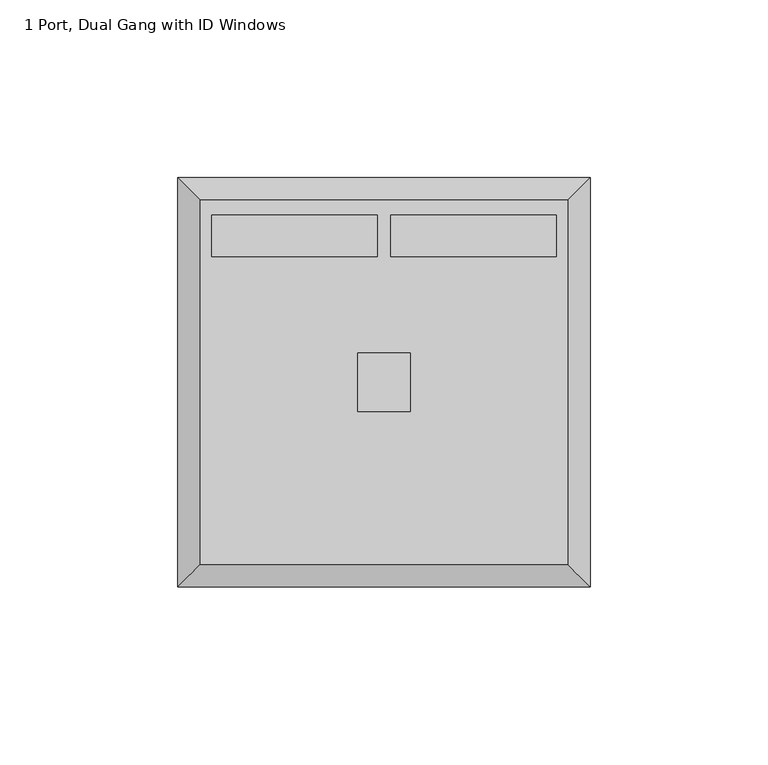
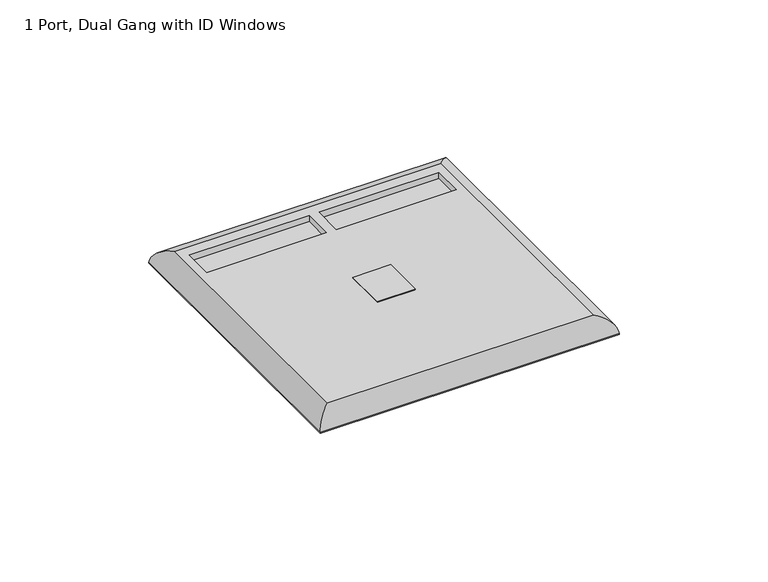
"""IFC4 building model written with IfcOpenShell, lengths in millimetres: electric appliance geometry, Data_Device-Work_Area-Leviton-QuickPort-Wallplate : 1 Port, Dual Gang with ID Windows."""

from ifc_helpers import new_model, si_unit, frame, origin, origin_with_axes, place, context, project, spatial, polyline, ellipse_curve, outline, extrude, source, transform, mapped, element, save
from ifc_brep_helpers import plane_surface, cylinder_surface, advanced_brep


def electric_appliance_1_port_dual_gang_with_id_windows_98a35fe1(model_context):
    return source(origin(), model_context, "Body", "SolidModel", [
        extrude(outline(polyline([(-15.6591, 16.4465), (-15.6591, -0.0635), (-30.3911, -0.0635), (-30.3911, 16.4465), (-15.6591, 16.4465)])), origin_with_axes(), (0.0, 0.0, 1.0), 6.35),
        advanced_brep(
        [(28.575, -42.9895, 6.35), (28.575, 59.3725, 6.35), (-74.6252, 59.3725, 6.35), (-74.6252, -42.9895, 6.35), (-30.3911, 16.4465, 6.35), (-15.6591, 16.4465, 6.35), (-15.6591, -0.0635, 6.35), (-30.3911, -0.0635, 6.35), (-71.44004, 55.1815, 6.35), (-24.95804, 55.1815, 6.35), (-24.95804, 43.4975, 6.35), (-71.44004, 43.4975, 6.35), (-21.09216, 43.4975, 6.35), (-21.09216, 55.1815, 6.35), (25.38984, 55.1815, 6.35), (25.38984, 43.4975, 6.35), (34.925, 65.7225, 0.0), (34.925, -49.3395, 0.0), (-80.9752, -49.3395, 0.0), (-80.9752, 65.7225, 0.0), (-15.6591, 16.4465, 0.0), (-30.3911, 16.4465, 0.0), (-30.3911, -0.0635, 0.0), (-15.6591, -0.0635, 0.0), (-80.9752, 65.7225, 0.254), (34.925, 65.7225, 0.254), (-80.9752, -49.3395, 0.254), (34.925, -49.3395, 0.254), (-24.95804, 55.1815, 3.81), (-71.44004, 55.1815, 3.81), (-71.44004, 43.4975, 3.81), (-24.95804, 43.4975, 3.81), (-21.09216, 55.1815, 3.81), (-21.09216, 43.4975, 3.81), (25.38984, 43.4975, 3.81), (25.38984, 55.1815, 3.81)],
        [
            (0, 1),
            (1, 2),
            (2, 3),
            (3, 0),
            (4, 5),
            (5, 6),
            (6, 7),
            (7, 4),
            (8, 9),
            (9, 10),
            (10, 11),
            (11, 8),
            (12, 13),
            (13, 14),
            (14, 15),
            (15, 12),
            (16, 17),
            (17, 18),
            (18, 19),
            (19, 16),
            (20, 21),
            (21, 22),
            (22, 23),
            (23, 20),
            (19, 24),
            (24, 25),
            (25, 16),
            (18, 26),
            (26, 24),
            (17, 27),
            (27, 26),
            (25, 27),
            (4, 21),
            (20, 5),
            (7, 22),
            (6, 23),
            (28, 29),
            (29, 30),
            (30, 31),
            (31, 28),
            (32, 33),
            (33, 34),
            (34, 35),
            (35, 32),
            (28, 9),
            (8, 29),
            (11, 30),
            (10, 31),
            (32, 13),
            (12, 33),
            (15, 34),
            (14, 35),
            (0, 27, ellipse_curve(frame((28.575, -42.9895, -0.0052917), z_axis=(0.7071067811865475, 0.7071067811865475, 0.0), x_axis=(0.7071067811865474, -0.7071067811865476, 0.0)), 8.9877397, 6.3552917)),
            (25, 1, ellipse_curve(frame((28.575, 59.3725, -0.0052917), z_axis=(0.7071067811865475, -0.7071067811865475, 0.0), x_axis=(-0.7071067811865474, -0.7071067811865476, 0.0)), 8.9877397, 6.3552917)),
            (3, 26, ellipse_curve(frame((-74.6252, -42.9895, -0.0052917), z_axis=(0.7071067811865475, -0.7071067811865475, 0.0), x_axis=(-0.7071067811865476, -0.7071067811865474, 0.0)), 8.9877397, 6.3552917)),
            (2, 24, ellipse_curve(frame((-74.6252, 59.3725, -0.0052917), z_axis=(-0.7071067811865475, -0.7071067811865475, 0.0), x_axis=(-0.7071067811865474, 0.7071067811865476, 0.0)), 8.9877397, 6.3552917)),
        ],
        [
            plane_surface(frame((-80.9752, 65.7225, 6.35), z_axis=(0.0, 0.0, 1.0), x_axis=(-1.0, 0.0, 0.0))),
            plane_surface(frame((-80.9752, 65.7225, 0.0), z_axis=(0.0, 0.0, -1.0), x_axis=(1.0, 0.0, 0.0))),
            plane_surface(frame((34.925, 65.7225, 6.35), z_axis=(0.0, 1.0, 0.0), x_axis=(0.0, 0.0, -1.0))),
            plane_surface(frame((-80.9752, 65.7225, 6.35), z_axis=(-1.0, 0.0, 0.0), x_axis=(0.0, 0.0, -1.0))),
            plane_surface(frame((-80.9752, -49.3395, 6.35), z_axis=(0.0, -1.0, 0.0), x_axis=(0.0, 0.0, -1.0))),
            plane_surface(frame((34.925, -49.3395, 6.35), z_axis=(1.0, 0.0, 0.0), x_axis=(0.0, 0.0, -1.0))),
            plane_surface(frame((-15.6591, 16.4465, 6.35), z_axis=(0.0, -1.0, 0.0), x_axis=(0.0, 0.0, -1.0))),
            plane_surface(frame((-30.3911, 16.4465, 6.35), z_axis=(1.0, 0.0, 0.0), x_axis=(0.0, 0.0, -1.0))),
            plane_surface(frame((-30.3911, -0.0635, 6.35), z_axis=(0.0, 1.0, 0.0), x_axis=(0.0, 0.0, -1.0))),
            plane_surface(frame((-15.6591, -0.0635, 6.35), z_axis=(-1.0, 0.0, 0.0), x_axis=(0.0, 0.0, -1.0))),
            plane_surface(frame((-71.44004, 55.1815, 3.81), z_axis=(0.0, 0.0, 1.0), x_axis=(1.0, 0.0, 0.0))),
            plane_surface(frame((-24.95804, 55.1815, 6.35), z_axis=(0.0, -1.0, 0.0), x_axis=(0.0, 0.0, -1.0))),
            plane_surface(frame((-71.44004, 55.1815, 6.35), z_axis=(1.0, 0.0, 0.0), x_axis=(0.0, 0.0, -1.0))),
            plane_surface(frame((-71.44004, 43.4975, 6.35), z_axis=(0.0, 1.0, 0.0), x_axis=(0.0, 0.0, -1.0))),
            plane_surface(frame((-24.95804, 43.4975, 6.35), z_axis=(-1.0, 0.0, 0.0), x_axis=(0.0, 0.0, -1.0))),
            plane_surface(frame((-21.09216, 55.1815, 6.35), z_axis=(1.0, 0.0, 0.0), x_axis=(0.0, 0.0, -1.0))),
            plane_surface(frame((-21.09216, 43.4975, 6.35), z_axis=(0.0, 1.0, 0.0), x_axis=(0.0, 0.0, -1.0))),
            plane_surface(frame((25.38984, 43.4975, 6.35), z_axis=(-1.0, 0.0, 0.0), x_axis=(0.0, 0.0, -1.0))),
            plane_surface(frame((25.38984, 55.1815, 6.35), z_axis=(0.0, -1.0, 0.0), x_axis=(0.0, 0.0, -1.0))),
            cylinder_surface(frame((28.575, 65.7225, -0.0052917), z_axis=(0.0, -1.0, 0.0), x_axis=(1.0, 0.0, 0.0)), 6.3552917),
            cylinder_surface(frame((34.925, -42.9895, -0.0052917), z_axis=(-1.0, 0.0, 0.0), x_axis=(0.0, -1.0, 0.0)), 6.3552917),
            cylinder_surface(frame((-74.6252, -49.3395, -0.0052917), z_axis=(0.0, 1.0, 0.0), x_axis=(-1.0, 0.0, 0.0)), 6.3552917),
            cylinder_surface(frame((-80.9752, 59.3725, -0.0052917), z_axis=(1.0, 0.0, 0.0), x_axis=(0.0, 1.0, 0.0)), 6.3552917),
        ],
        [
            (0, [[1, 2, 3, 4], [5, 6, 7, 8], [9, 10, 11, 12], [13, 14, 15, 16]]),
            (1, [[17, 18, 19, 20], [21, 22, 23, 24]]),
            (2, [[-20, 25, 26, 27]]),
            (3, [[-19, 28, 29, -25]]),
            (4, [[-18, 30, 31, -28]]),
            (5, [[-17, -27, 32, -30]]),
            (6, [[33, -21, 34, -5]]),
            (7, [[-33, -8, 35, -22]]),
            (8, [[-35, -7, 36, -23]]),
            (9, [[-34, -24, -36, -6]]),
            (10, [[37, 38, 39, 40]]),
            (10, [[41, 42, 43, 44]]),
            (11, [[-37, 45, -9, 46]]),
            (12, [[-38, -46, -12, 47]]),
            (13, [[-39, -47, -11, 48]]),
            (14, [[-40, -48, -10, -45]]),
            (15, [[-41, 49, -13, 50]]),
            (16, [[-42, -50, -16, 51]]),
            (17, [[-43, -51, -15, 52]]),
            (18, [[-44, -52, -14, -49]]),
            (19, [[53, -32, 54, -1]]),
            (20, [[-53, -4, 55, -31]]),
            (21, [[-55, -3, 56, -29]]),
            (22, [[-54, -26, -56, -2]]),
        ],
    ),
        extrude(outline(polyline([(34.671, 65.4685), (34.671, -49.0855), (-80.7212, -49.0855), (-80.7212, 65.4685), (34.671, 65.4685)]), holes=[polyline([(-15.6591, 16.4465), (-30.3911, 16.4465), (-30.3911, -0.0635), (-15.6591, -0.0635), (-15.6591, 16.4465)])]), origin_with_axes(), (0.0, 0.0, 1.0), 0.254),
    ])


if __name__ == "__main__":
    model = new_model("IFC4")
    model_context = context("Model", 3, world=origin())
    ifc_project = project(units=[si_unit("LENGTHUNIT", "METRE", prefix="MILLI")], contexts=[model_context])
    site = spatial("IfcSite", under=ifc_project)
    building = spatial("IfcBuilding", under=site)
    placement = place(None, origin())
    electric_appliance_1_port_dual_gang_with_id_windows_shape = electric_appliance_1_port_dual_gang_with_id_windows_98a35fe1(model_context)
    element("IfcElectricAppliance", 1, ObjectType="Data_Device-Work_Area-Leviton-QuickPort-Wallplate : 1 Port, Dual Gang with ID Windows", at=placement, inside=building, context=model_context, shape_type="MappedRepresentation", body=[
        mapped(electric_appliance_1_port_dual_gang_with_id_windows_shape, transform((0.0, 0.0, 0.0), x_axis=(1.0, 0.0, 0.0), y_axis=(0.0, 1.0, 0.0), z_axis=(0.0, 0.0, 1.0))),
    ])
    save(model, "model.ifc")
